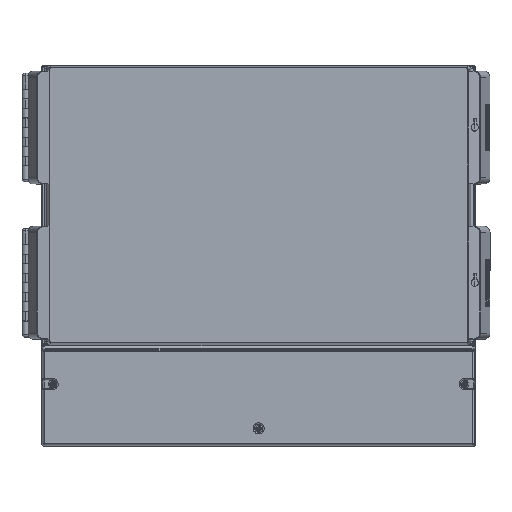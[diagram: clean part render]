
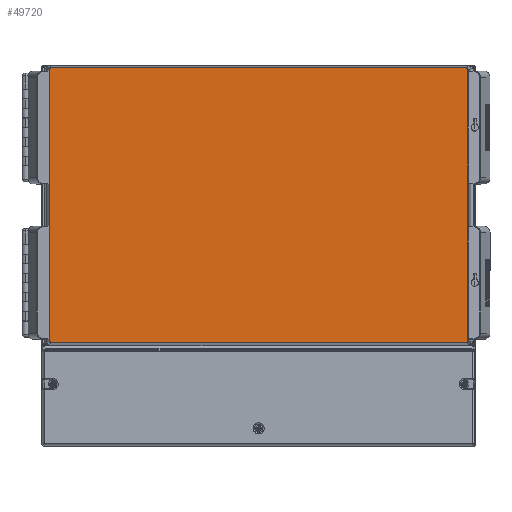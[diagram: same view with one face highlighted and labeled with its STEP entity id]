
A CAD part, top view. The second image highlights one B-rep face of the part: STEP entity #49720.
In plain terms, the highlighted planar face has unit normal (0, 0, 1) as drawn and (0, 1, 0) by its records, which use the part's own axes.
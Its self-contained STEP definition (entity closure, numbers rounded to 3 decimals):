
#49155=CARTESIAN_POINT('',(-17.346,2.75,-11.488));
#49156=VERTEX_POINT('',#49155);
#49164=CARTESIAN_POINT('',(17.346,2.75,-11.488));
#49165=VERTEX_POINT('',#49164);
#49166=CARTESIAN_POINT('',(-17.346,2.75,-11.488));
#49167=DIRECTION('',(1.0,0.0,0.0));
#49168=VECTOR('',#49167,34.692);
#49169=LINE('',#49166,#49168);
#49170=EDGE_CURVE('',#49156,#49165,#49169,.T.);
#49241=CARTESIAN_POINT('',(-17.496,2.75,-11.339));
#49242=VERTEX_POINT('',#49241);
#49250=CARTESIAN_POINT('',(-17.345,2.75,-11.338));
#49251=DIRECTION('',(0.0,-1.0,0.0));
#49252=DIRECTION('',(-0.92,0.0,-0.393));
#49253=AXIS2_PLACEMENT_3D('',#49250,#49251,#49252);
#49254=ELLIPSE('',#49253,0.151,0.15);
#49255=EDGE_CURVE('',#49242,#49156,#49254,.T.);
#49319=CARTESIAN_POINT('',(17.496,2.75,-11.339));
#49320=VERTEX_POINT('',#49319);
#49336=CARTESIAN_POINT('',(17.345,2.75,-11.338));
#49337=DIRECTION('',(0.0,-1.0,0.0));
#49338=DIRECTION('',(0.92,0.0,-0.393));
#49339=AXIS2_PLACEMENT_3D('',#49336,#49337,#49338);
#49340=ELLIPSE('',#49339,0.151,0.15);
#49341=EDGE_CURVE('',#49165,#49320,#49340,.T.);
#49351=CARTESIAN_POINT('',(-17.496,2.75,11.339));
#49352=VERTEX_POINT('',#49351);
#49360=CARTESIAN_POINT('',(-17.496,2.75,11.339));
#49361=DIRECTION('',(0.0,0.0,-1.0));
#49362=VECTOR('',#49361,22.678);
#49363=LINE('',#49360,#49362);
#49364=EDGE_CURVE('',#49352,#49242,#49363,.T.);
#49376=CARTESIAN_POINT('',(17.496,2.75,11.339));
#49377=VERTEX_POINT('',#49376);
#49387=CARTESIAN_POINT('',(17.496,2.75,-11.339));
#49388=DIRECTION('',(0.0,0.0,1.0));
#49389=VECTOR('',#49388,22.678);
#49390=LINE('',#49387,#49389);
#49391=EDGE_CURVE('',#49320,#49377,#49390,.T.);
#49449=CARTESIAN_POINT('',(-17.346,2.75,11.488));
#49450=VERTEX_POINT('',#49449);
#49458=CARTESIAN_POINT('',(-17.345,2.75,11.338));
#49459=DIRECTION('',(0.0,-1.,0.0));
#49460=DIRECTION('',(-0.92,0.0,0.393));
#49461=AXIS2_PLACEMENT_3D('',#49458,#49459,#49460);
#49462=ELLIPSE('',#49461,0.151,0.15);
#49463=EDGE_CURVE('',#49450,#49352,#49462,.T.);
#49527=CARTESIAN_POINT('',(17.346,2.75,11.488));
#49528=VERTEX_POINT('',#49527);
#49546=CARTESIAN_POINT('',(17.345,2.75,11.338));
#49547=DIRECTION('',(0.0,-1.0,0.0));
#49548=DIRECTION('',(0.92,0.0,0.393));
#49549=AXIS2_PLACEMENT_3D('',#49546,#49547,#49548);
#49550=ELLIPSE('',#49549,0.151,0.15);
#49551=EDGE_CURVE('',#49377,#49528,#49550,.T.);
#49569=CARTESIAN_POINT('',(17.346,2.75,11.488));
#49570=DIRECTION('',(-1.0,0.0,0.0));
#49571=VECTOR('',#49570,34.692);
#49572=LINE('',#49569,#49571);
#49573=EDGE_CURVE('',#49528,#49450,#49572,.T.);
#49705=CARTESIAN_POINT('',(0.,2.75,0.));
#49706=DIRECTION('',(0.0,1.0,0.0));
#49707=DIRECTION('',(0.0,0.0,1.0));
#49708=AXIS2_PLACEMENT_3D('',#49705,#49706,#49707);
#49709=PLANE('',#49708);
#49710=ORIENTED_EDGE('',*,*,#49170,.F.);
#49711=ORIENTED_EDGE('',*,*,#49255,.F.);
#49712=ORIENTED_EDGE('',*,*,#49364,.F.);
#49713=ORIENTED_EDGE('',*,*,#49463,.F.);
#49714=ORIENTED_EDGE('',*,*,#49573,.F.);
#49715=ORIENTED_EDGE('',*,*,#49551,.F.);
#49716=ORIENTED_EDGE('',*,*,#49391,.F.);
#49717=ORIENTED_EDGE('',*,*,#49341,.F.);
#49718=EDGE_LOOP('',(#49710,#49711,#49712,#49713,#49714,#49715,#49716,#49717));
#49719=FACE_OUTER_BOUND('',#49718,.T.);
#49720=ADVANCED_FACE('',(#49719),#49709,.T.);
